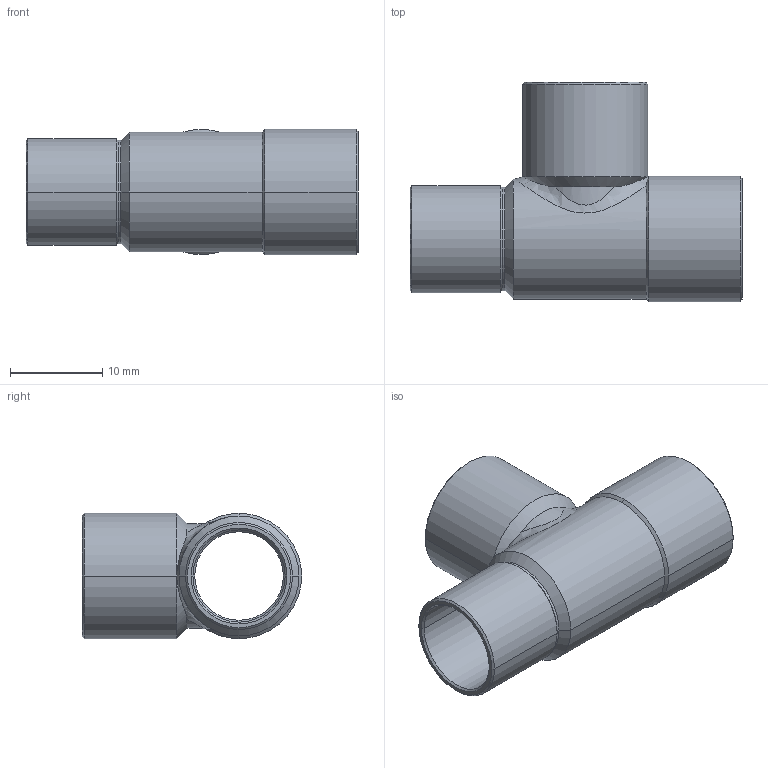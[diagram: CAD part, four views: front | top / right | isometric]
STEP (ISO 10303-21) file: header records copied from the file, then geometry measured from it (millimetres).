
FILE_DESCRIPTION((''),'2;1');
FILE_NAME('P:\Bouwmaten\z-maattekeningen 3D\5000\5130\5130121210.stp','2005-10-26T11:52:26',('Kris'),(''),'Autodesk Inventor 8','Autodesk Inventor 8','');
FILE_SCHEMA(('AUTOMOTIVE_DESIGN { 1 0 10303 214 1 1 1 1 }'));
Length unit declared in the file: millimetre
Products named in the file (1): 5130121210
Bounding box: 36 x 23.8 x 13.6 mm (x, y, z)
Volume: 1392.7 mm3; surface area: 3562.7 mm2
Topology: 1 solids, 1 shells, 59 faces, 140 edges, 82 vertices
Faces by surface type: cone 28, cylinder 26, plane 3, bspline 2
Entity records: 2369 total; most frequent: CARTESIAN_POINT 980, DIRECTION 298, ORIENTED_EDGE 280, EDGE_CURVE 140, AXIS2_PLACEMENT_3D 125, VERTEX_POINT 82, CIRCLE 67, EDGE_LOOP 62
